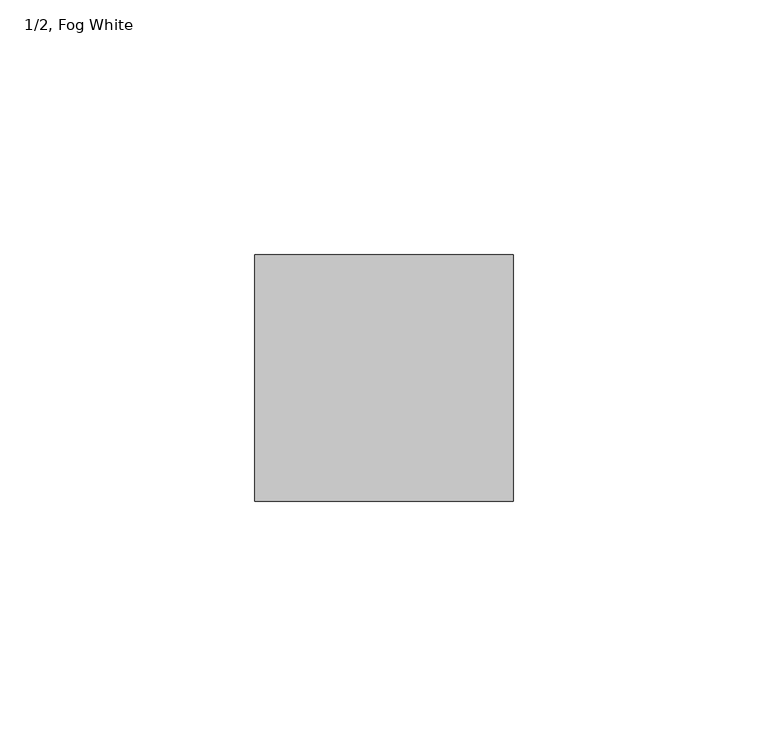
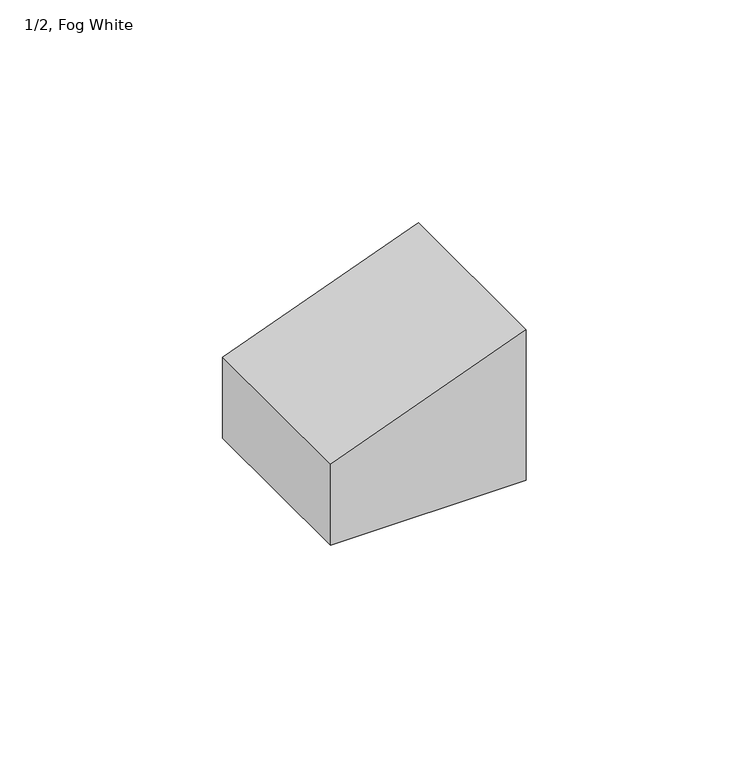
"""IFC4 building model written with IfcOpenShell, lengths in millimetres: proxy geometry, End_Fitting-2400_Series-Wiremold-Entrance : 1/2, Fog White."""

from ifc_helpers import new_model, si_unit, frame, origin, place, context, project, spatial, polyline, outline, extrude, source, transform, mapped, element, save


def proxy_1_2_fog_white_882b4655(model_context):
    return source(origin(), model_context, "Body", "SweptSolid", [
        extrude(outline(polyline([(41.275, 25.4), (22.225, -25.4), (0.0, -25.4), (0.0, 25.4), (41.275, 25.4)])), frame((0.0, -24.2062, 0.0), z_axis=(0.0, 1.0, 0.0), x_axis=(0.0, 0.0, 1.0)), (0.0, 0.0, 1.0), 48.4124),
    ])


if __name__ == "__main__":
    model = new_model("IFC4")
    model_context = context("Model", 3, world=origin())
    ifc_project = project(units=[si_unit("LENGTHUNIT", "METRE", prefix="MILLI")], contexts=[model_context])
    site = spatial("IfcSite", under=ifc_project)
    building = spatial("IfcBuilding", under=site)
    placement = place(None, origin())
    proxy_1_2_fog_white_shape = proxy_1_2_fog_white_882b4655(model_context)
    element("IfcBuildingElementProxy", 1, Name="End_Fitting-2400_Series-Wiremold-Entrance : 1/2, Fog White", ObjectType="End_Fitting-2400_Series-Wiremold-Entrance : 1/2, Fog White", at=placement, inside=building, context=model_context, shape_type="MappedRepresentation", body=[
        mapped(proxy_1_2_fog_white_shape, transform((0.0, 0.0, 0.0), x_axis=(1.0, 0.0, 0.0), y_axis=(0.0, 1.0, 0.0), z_axis=(0.0, 0.0, 1.0))),
    ])
    save(model, "model.ifc")
